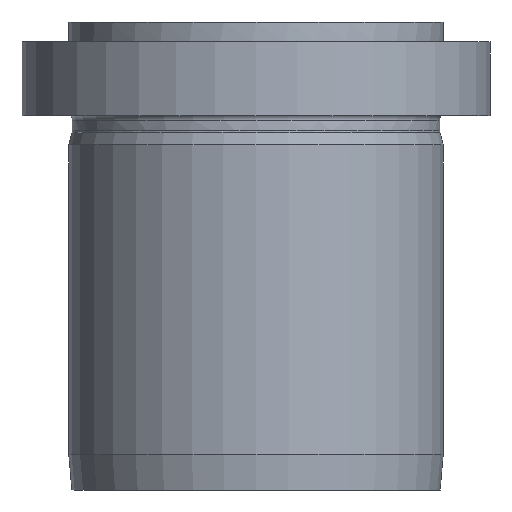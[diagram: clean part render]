
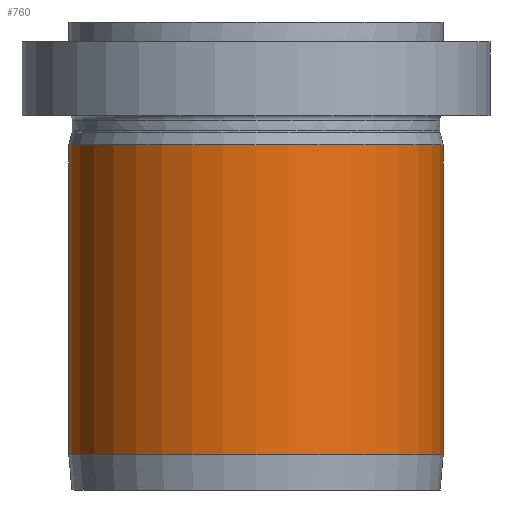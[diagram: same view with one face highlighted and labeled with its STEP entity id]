
A CAD part, left-side view. The second image highlights one B-rep face of the part: STEP entity #760.
In plain terms, the highlighted cylindrical face has radius 16 mm (diameter 32 mm), a partial arc.
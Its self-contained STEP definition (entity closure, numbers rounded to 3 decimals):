
#141=CARTESIAN_POINT('Axis2P3D Location',(0.,0.,20.)) ;
#549=CARTESIAN_POINT('Vertex',(0.,-16.,29.5)) ;
#556=CARTESIAN_POINT('Vertex',(0.,16.,29.5)) ;
#571=CARTESIAN_POINT('Axis2P3D Location',(0.,0.,29.5)) ;
#587=CARTESIAN_POINT('Vertex',(0.,-16.,27.)) ;
#589=CARTESIAN_POINT('Vertex',(0.,16.,27.)) ;
#592=CARTESIAN_POINT('Line Origine',(0.,16.,20.)) ;
#597=CARTESIAN_POINT('Line Origine',(0.,-16.,20.)) ;
#704=CARTESIAN_POINT('Axis2P3D Location',(0.,0.,3.)) ;
#708=CARTESIAN_POINT('Vertex',(0.,16.,3.)) ;
#710=CARTESIAN_POINT('Vertex',(0.,-16.,3.)) ;
#742=CARTESIAN_POINT('Line Origine',(0.,16.,20.)) ;
#747=CARTESIAN_POINT('Line Origine',(0.,-16.,20.)) ;
#142=DIRECTION('Axis2P3D Direction',(0.,0.,1.)) ;
#143=DIRECTION('Axis2P3D XDirection',(0.,-1.,0.)) ;
#572=DIRECTION('Axis2P3D Direction',(-0.,0.,-1.)) ;
#593=DIRECTION('Vector Direction',(0.,0.,1.)) ;
#598=DIRECTION('Vector Direction',(0.,0.,1.)) ;
#705=DIRECTION('Axis2P3D Direction',(0.,0.,1.)) ;
#743=DIRECTION('Vector Direction',(0.,0.,1.)) ;
#748=DIRECTION('Vector Direction',(0.,0.,1.)) ;
#144=AXIS2_PLACEMENT_3D('Cylinder Axis2P3D',#141,#142,#143) ;
#573=AXIS2_PLACEMENT_3D('Circle Axis2P3D',#571,#572,$) ;
#706=AXIS2_PLACEMENT_3D('Circle Axis2P3D',#704,#705,$) ;
#753=ORIENTED_EDGE('',*,*,#746,.F.) ;
#754=ORIENTED_EDGE('',*,*,#712,.T.) ;
#755=ORIENTED_EDGE('',*,*,#751,.T.) ;
#756=ORIENTED_EDGE('',*,*,#601,.F.) ;
#757=ORIENTED_EDGE('',*,*,#575,.F.) ;
#758=ORIENTED_EDGE('',*,*,#596,.T.) ;
#594=VECTOR('Line Direction',#593,1.) ;
#599=VECTOR('Line Direction',#598,1.) ;
#744=VECTOR('Line Direction',#743,1.) ;
#749=VECTOR('Line Direction',#748,1.) ;
#760=ADVANCED_FACE('PartBody',(#759),#145,.T.) ;
#574=CIRCLE('generated circle',#573,16.) ;
#707=CIRCLE('generated circle',#706,16.) ;
#145=CYLINDRICAL_SURFACE('generated cylinder',#144,16.) ;
#575=EDGE_CURVE('',#557,#550,#574,.F.) ;
#596=EDGE_CURVE('',#557,#590,#595,.F.) ;
#601=EDGE_CURVE('',#550,#588,#600,.F.) ;
#712=EDGE_CURVE('',#709,#711,#707,.T.) ;
#746=EDGE_CURVE('',#709,#590,#745,.T.) ;
#751=EDGE_CURVE('',#711,#588,#750,.T.) ;
#752=EDGE_LOOP('',(#753,#754,#755,#756,#757,#758)) ;
#759=FACE_OUTER_BOUND('',#752,.T.) ;
#595=LINE('Line',#592,#594) ;
#600=LINE('Line',#597,#599) ;
#745=LINE('Line',#742,#744) ;
#750=LINE('Line',#747,#749) ;
#550=VERTEX_POINT('',#549) ;
#557=VERTEX_POINT('',#556) ;
#588=VERTEX_POINT('',#587) ;
#590=VERTEX_POINT('',#589) ;
#709=VERTEX_POINT('',#708) ;
#711=VERTEX_POINT('',#710) ;
